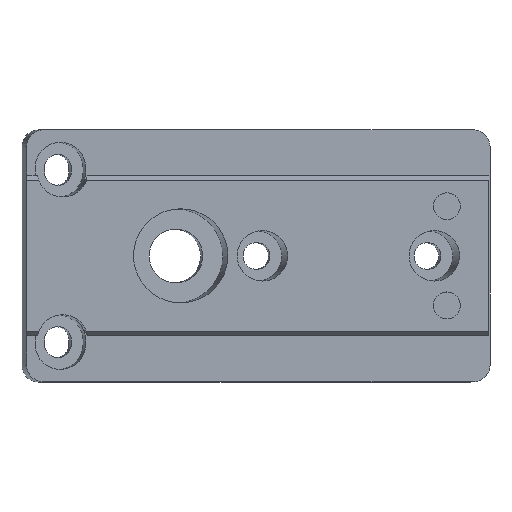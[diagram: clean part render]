
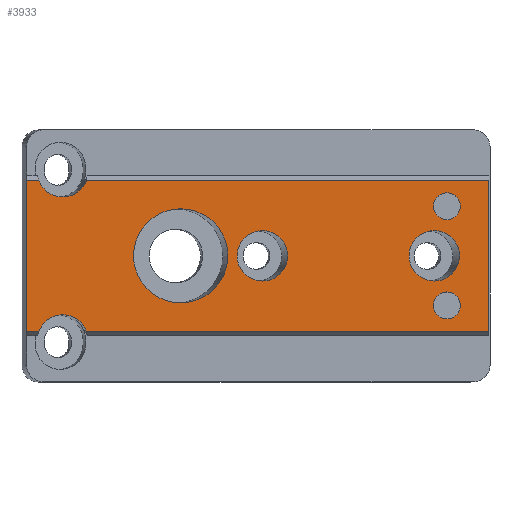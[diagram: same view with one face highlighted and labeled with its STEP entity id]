
A CAD part, top view. The second image highlights one B-rep face of the part: STEP entity #3933.
In plain terms, the highlighted planar face has unit normal (0, 0, 1).
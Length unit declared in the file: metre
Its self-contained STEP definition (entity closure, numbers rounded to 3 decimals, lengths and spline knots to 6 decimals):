
#96=ELLIPSE('',#4187,0.005614,0.0056);
#97=ELLIPSE('',#4188,0.003007,0.003);
#98=ELLIPSE('',#4189,0.003007,0.003);
#99=ELLIPSE('',#4192,0.003007,0.003);
#100=ELLIPSE('',#4193,0.003007,0.003);
#180=CIRCLE('',#4190,0.0016);
#181=CIRCLE('',#4191,0.0016);
#275=ORIENTED_EDGE('',*,*,#1449,.T.);
#276=ORIENTED_EDGE('',*,*,#1450,.T.);
#277=ORIENTED_EDGE('',*,*,#1451,.T.);
#278=ORIENTED_EDGE('',*,*,#1452,.T.);
#279=ORIENTED_EDGE('',*,*,#1453,.T.);
#280=ORIENTED_EDGE('',*,*,#1454,.F.);
#281=ORIENTED_EDGE('',*,*,#1455,.T.);
#282=ORIENTED_EDGE('',*,*,#1456,.F.);
#283=ORIENTED_EDGE('',*,*,#1457,.T.);
#284=ORIENTED_EDGE('',*,*,#1458,.F.);
#285=ORIENTED_EDGE('',*,*,#1459,.T.);
#286=ORIENTED_EDGE('',*,*,#1460,.T.);
#287=ORIENTED_EDGE('',*,*,#1461,.T.);
#1449=EDGE_CURVE('',#2036,#2036,#96,.T.);
#1450=EDGE_CURVE('',#2037,#2037,#97,.T.);
#1451=EDGE_CURVE('',#2038,#2038,#98,.T.);
#1452=EDGE_CURVE('',#2039,#2039,#180,.T.);
#1453=EDGE_CURVE('',#2040,#2040,#181,.T.);
#1454=EDGE_CURVE('',#2041,#2042,#99,.F.);
#1455=EDGE_CURVE('',#2041,#2043,#2413,.T.);
#1456=EDGE_CURVE('',#2044,#2043,#2414,.T.);
#1457=EDGE_CURVE('',#2044,#2045,#2415,.T.);
#1458=EDGE_CURVE('',#2046,#2045,#100,.F.);
#1459=EDGE_CURVE('',#2046,#2047,#2416,.T.);
#1460=EDGE_CURVE('',#2047,#2048,#2417,.T.);
#1461=EDGE_CURVE('',#2048,#2042,#2418,.T.);
#2036=VERTEX_POINT('',#5556);
#2037=VERTEX_POINT('',#5558);
#2038=VERTEX_POINT('',#5560);
#2039=VERTEX_POINT('',#5562);
#2040=VERTEX_POINT('',#5564);
#2041=VERTEX_POINT('',#5566);
#2042=VERTEX_POINT('',#5567);
#2043=VERTEX_POINT('',#5569);
#2044=VERTEX_POINT('',#5571);
#2045=VERTEX_POINT('',#5573);
#2046=VERTEX_POINT('',#5575);
#2047=VERTEX_POINT('',#5577);
#2048=VERTEX_POINT('',#5579);
#2413=LINE('',#5568,#2848);
#2414=LINE('',#5570,#2849);
#2415=LINE('',#5572,#2850);
#2416=LINE('',#5576,#2851);
#2417=LINE('',#5578,#2852);
#2418=LINE('',#5580,#2853);
#2848=VECTOR('',#4535,1.);
#2849=VECTOR('',#4536,1.);
#2850=VECTOR('',#4537,1.);
#2851=VECTOR('',#4540,1.);
#2852=VECTOR('',#4541,1.);
#2853=VECTOR('',#4542,1.);
#3270=EDGE_LOOP('',(#275));
#3271=EDGE_LOOP('',(#276));
#3272=EDGE_LOOP('',(#277));
#3273=EDGE_LOOP('',(#278));
#3274=EDGE_LOOP('',(#279));
#3275=EDGE_LOOP('',(#280,#281,#282,#283,#284,#285,#286,#287));
#3529=FACE_BOUND('',#3270,.T.);
#3530=FACE_BOUND('',#3271,.T.);
#3531=FACE_BOUND('',#3272,.T.);
#3532=FACE_BOUND('',#3273,.T.);
#3533=FACE_BOUND('',#3274,.T.);
#3534=FACE_BOUND('',#3275,.T.);
#3780=PLANE('',#4186);
#3933=ADVANCED_FACE('',(#3529,#3530,#3531,#3532,#3533,#3534),#3780,.F.);
#4186=AXIS2_PLACEMENT_3D('',#5554,#4521,#4522);
#4187=AXIS2_PLACEMENT_3D('',#5555,#4523,#4524);
#4188=AXIS2_PLACEMENT_3D('',#5557,#4525,#4526);
#4189=AXIS2_PLACEMENT_3D('',#5559,#4527,#4528);
#4190=AXIS2_PLACEMENT_3D('',#5561,#4529,#4530);
#4191=AXIS2_PLACEMENT_3D('',#5563,#4531,#4532);
#4192=AXIS2_PLACEMENT_3D('',#5565,#4533,#4534);
#4193=AXIS2_PLACEMENT_3D('',#5574,#4538,#4539);
#4521=DIRECTION('',(0.,0.,-1.));
#4522=DIRECTION('',(-1.,0.,0.));
#4523=DIRECTION('',(0.,0.,-1.));
#4524=DIRECTION('',(-1.,0.,0.));
#4525=DIRECTION('',(0.,0.,-1.));
#4526=DIRECTION('',(-1.,0.,0.));
#4527=DIRECTION('',(0.,0.,-1.));
#4528=DIRECTION('',(-1.,0.,0.));
#4529=DIRECTION('',(0.,0.,-1.));
#4530=DIRECTION('',(-1.,0.,0.));
#4531=DIRECTION('',(0.,0.,-1.));
#4532=DIRECTION('',(-1.,0.,0.));
#4533=DIRECTION('',(0.,0.,-1.));
#4534=DIRECTION('',(-1.,0.,0.));
#4535=DIRECTION('',(1.,0.,0.));
#4536=DIRECTION('',(0.,-1.,0.));
#4537=DIRECTION('',(-1.,0.,0.));
#4538=DIRECTION('',(0.,0.,-1.));
#4539=DIRECTION('',(-1.,0.,0.));
#4540=DIRECTION('',(-1.,0.,0.));
#4541=DIRECTION('',(0.,-1.,0.));
#4542=DIRECTION('',(1.,0.,0.));
#5554=CARTESIAN_POINT('',(0.055,0.,0.0041));
#5555=CARTESIAN_POINT('',(0.018331,0.,0.0041));
#5556=CARTESIAN_POINT('',(0.012717,0.,0.0041));
#5557=CARTESIAN_POINT('',(0.048504,0.,0.0041));
#5558=CARTESIAN_POINT('',(0.045497,0.,0.0041));
#5559=CARTESIAN_POINT('',(0.028054,0.,0.0041));
#5560=CARTESIAN_POINT('',(0.025047,0.,0.0041));
#5561=CARTESIAN_POINT('',(0.05,0.0059,0.0041));
#5562=CARTESIAN_POINT('',(0.0484,0.0059,0.0041));
#5563=CARTESIAN_POINT('',(0.05,-0.0059,0.0041));
#5564=CARTESIAN_POINT('',(0.0484,-0.0059,0.0041));
#5565=CARTESIAN_POINT('',(0.004296,-0.01,0.0041));
#5566=CARTESIAN_POINT('',(0.007133,-0.009004,0.0041));
#5567=CARTESIAN_POINT('',(0.00146,-0.009004,0.0041));
#5568=CARTESIAN_POINT('',(0.055,-0.009004,0.0041));
#5569=CARTESIAN_POINT('',(0.055,-0.009004,0.0041));
#5570=CARTESIAN_POINT('',(0.055,0.,0.0041));
#5571=CARTESIAN_POINT('',(0.055,0.009004,0.0041));
#5572=CARTESIAN_POINT('',(0.,0.009004,0.0041));
#5573=CARTESIAN_POINT('',(0.007133,0.009004,0.0041));
#5574=CARTESIAN_POINT('',(0.004296,0.01,0.0041));
#5575=CARTESIAN_POINT('',(0.00146,0.009004,0.0041));
#5576=CARTESIAN_POINT('',(0.,0.009004,0.0041));
#5577=CARTESIAN_POINT('',(0.,0.009004,0.0041));
#5578=CARTESIAN_POINT('',(0.,0.,0.0041));
#5579=CARTESIAN_POINT('',(0.,-0.009004,0.0041));
#5580=CARTESIAN_POINT('',(0.055,-0.009004,0.0041));
